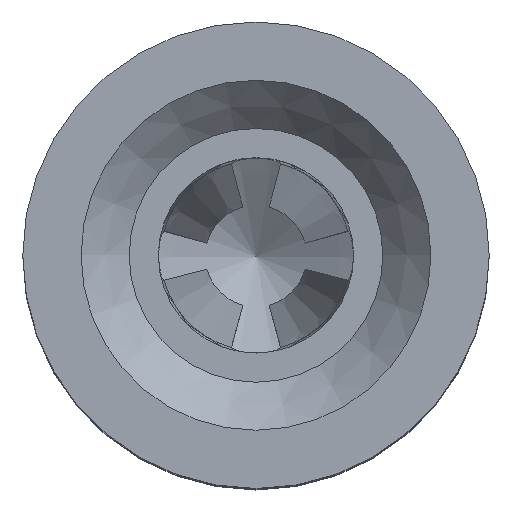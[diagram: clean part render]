
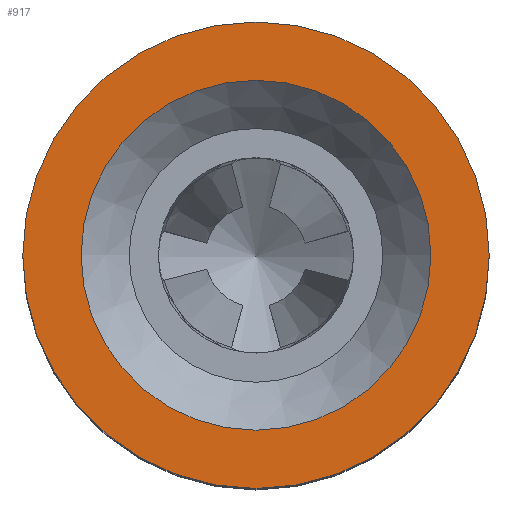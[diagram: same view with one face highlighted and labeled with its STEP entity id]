
A CAD part, top view. The second image highlights one B-rep face of the part: STEP entity #917.
In plain terms, the highlighted planar face has unit normal (0, 0, 1).
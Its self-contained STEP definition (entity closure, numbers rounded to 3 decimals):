
#193=FACE_BOUND('',#297,.T.);
#241=FACE_OUTER_BOUND('',#296,.T.);
#296=EDGE_LOOP('',(#817));
#297=EDGE_LOOP('',(#818));
#350=CIRCLE('',#1034,0.6);
#352=CIRCLE('',#1038,0.8);
#439=VERTEX_POINT('',#2211);
#441=VERTEX_POINT('',#2219);
#567=EDGE_CURVE('',#439,#439,#350,.T.);
#571=EDGE_CURVE('',#441,#441,#352,.T.);
#817=ORIENTED_EDGE('',*,*,#571,.T.);
#818=ORIENTED_EDGE('',*,*,#567,.T.);
#869=PLANE('',#1037);
#917=ADVANCED_FACE('',(#241,#193),#869,.T.);
#1034=AXIS2_PLACEMENT_3D('',#2212,#1291,#1292);
#1037=AXIS2_PLACEMENT_3D('',#2218,#1299,#1300);
#1038=AXIS2_PLACEMENT_3D('',#2220,#1301,#1302);
#1291=DIRECTION('center_axis',(0.,0.,-1.));
#1292=DIRECTION('ref_axis',(1.,0.,0.));
#1299=DIRECTION('center_axis',(0.,0.,1.));
#1300=DIRECTION('ref_axis',(1.,0.,0.));
#1301=DIRECTION('center_axis',(0.,0.,1.));
#1302=DIRECTION('ref_axis',(1.,0.,0.));
#2211=CARTESIAN_POINT('',(-0.6,0.,2.9));
#2212=CARTESIAN_POINT('Origin',(0.,0.,2.9));
#2218=CARTESIAN_POINT('Origin',(0.,0.,2.9));
#2219=CARTESIAN_POINT('',(-0.8,0.,2.9));
#2220=CARTESIAN_POINT('Origin',(0.,0.,2.9));
